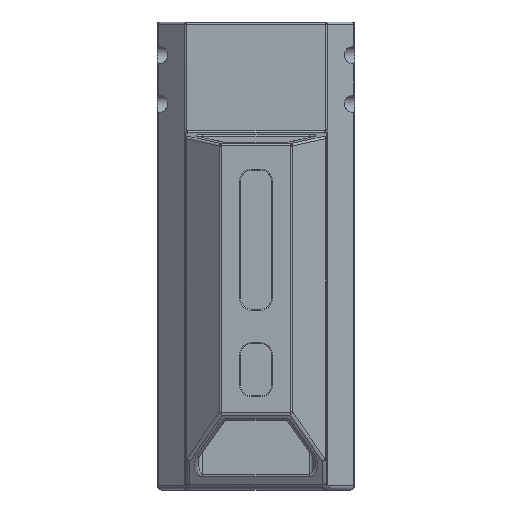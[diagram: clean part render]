
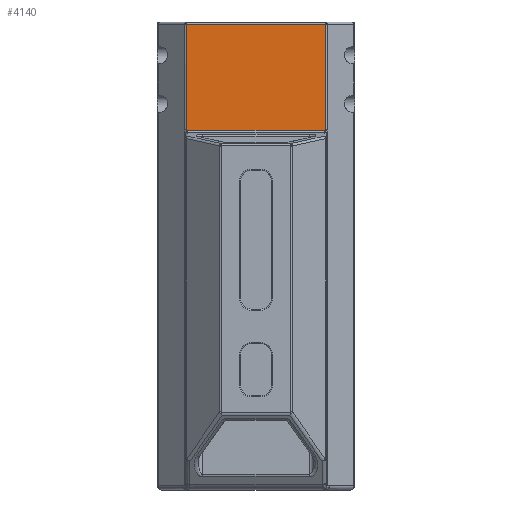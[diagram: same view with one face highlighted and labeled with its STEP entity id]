
A CAD part, front view. The second image highlights one B-rep face of the part: STEP entity #4140.
In plain terms, the highlighted planar face has unit normal (0, -1, 0).
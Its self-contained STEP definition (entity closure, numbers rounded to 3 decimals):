
#569 = EDGE_CURVE ( 'NONE', #31291, #33818, #15635, .T. ) ;
#747 = EDGE_CURVE ( 'NONE', #29474, #15491, #24361, .T. ) ;
#2136 = EDGE_CURVE ( 'NONE', #19512, #31291, #12078, .T. ) ;
#2979 = CARTESIAN_POINT ( 'NONE',  ( -16.032, 0., -24.99 ) ) ;
#3996 = DIRECTION ( 'NONE',  ( 1., 0., 0. ) ) ;
#4140 = ADVANCED_FACE ( 'NONE', ( #19624 ), #14696, .F. ) ;
#4248 = CARTESIAN_POINT ( 'NONE',  ( -16.25, 0., -25.4 ) ) ;
#4785 = EDGE_CURVE ( 'NONE', #33818, #29474, #20889, .T. ) ;
#5435 = B_SPLINE_CURVE_WITH_KNOTS ( 'NONE', 3,
 ( #26818, #18783, #2979, #32443, #21572, #16198, #10919 ),
 .UNSPECIFIED., .F., .F.,
 ( 4, 3, 4 ),
 ( 0., 0., 0. ),
 .UNSPECIFIED. ) ;
#6689 = DIRECTION ( 'NONE',  ( 0., 1., 0. ) ) ;
#6908 = DIRECTION ( 'NONE',  ( 0., 0., 1. ) ) ;
#7718 = ORIENTED_EDGE ( 'NONE', *, *, #4785, .T. ) ;
#8312 = ORIENTED_EDGE ( 'NONE', *, *, #30938, .T. ) ;
#9636 = DIRECTION ( 'NONE',  ( 0., 0., 1. ) ) ;
#10211 = CARTESIAN_POINT ( 'NONE',  ( 16.037, 0., -24.984 ) ) ;
#10919 = CARTESIAN_POINT ( 'NONE',  ( -16.022, 0., -24.999 ) ) ;
#11440 = CARTESIAN_POINT ( 'NONE',  ( -16.043, 0., -25.4 ) ) ;
#11547 = DIRECTION ( 'NONE',  ( 0., 0., -1. ) ) ;
#12078 = B_SPLINE_CURVE_WITH_KNOTS ( 'NONE', 3,
 ( #31290, #12644, #25769, #22954, #12425, #10211, #28766 ),
 .UNSPECIFIED., .F., .F.,
 ( 4, 3, 4 ),
 ( 0., 0., 0. ),
 .UNSPECIFIED. ) ;
#12425 = CARTESIAN_POINT ( 'NONE',  ( 16.032, 0., -24.99 ) ) ;
#12644 = CARTESIAN_POINT ( 'NONE',  ( 16.024, 0., -24.998 ) ) ;
#13378 = VERTEX_POINT ( 'NONE', #25288 ) ;
#13618 = VECTOR ( 'NONE', #6908, 1000. ) ;
#13814 = VECTOR ( 'NONE', #34445, 1000. ) ;
#13961 = CARTESIAN_POINT ( 'NONE',  ( -16.043, 0., -0.5 ) ) ;
#14696 = PLANE ( 'NONE',  #22256 ) ;
#15491 = VERTEX_POINT ( 'NONE', #18169 ) ;
#15635 = LINE ( 'NONE', #20264, #13618 ) ;
#15702 = EDGE_LOOP ( 'NONE', ( #8312, #24364, #22379, #7718, #17447, #24583 ) ) ;
#16084 = LINE ( 'NONE', #24923, #19015 ) ;
#16198 = CARTESIAN_POINT ( 'NONE',  ( -16.024, 0., -24.998 ) ) ;
#17447 = ORIENTED_EDGE ( 'NONE', *, *, #747, .T. ) ;
#18169 = CARTESIAN_POINT ( 'NONE',  ( -16.043, 0., -24.978 ) ) ;
#18210 = CARTESIAN_POINT ( 'NONE',  ( -16.043, 0., -0.5 ) ) ;
#18783 = CARTESIAN_POINT ( 'NONE',  ( -16.037, 0., -24.984 ) ) ;
#18968 = VECTOR ( 'NONE', #11547, 1000. ) ;
#19015 = VECTOR ( 'NONE', #3996, 1000. ) ;
#19512 = VERTEX_POINT ( 'NONE', #23539 ) ;
#19624 = FACE_OUTER_BOUND ( 'NONE', #15702, .T. ) ;
#20264 = CARTESIAN_POINT ( 'NONE',  ( 16.043, 0., 0. ) ) ;
#20889 = LINE ( 'NONE', #18210, #13814 ) ;
#20974 = CARTESIAN_POINT ( 'NONE',  ( 16.043, 0., -0.5 ) ) ;
#21572 = CARTESIAN_POINT ( 'NONE',  ( -16.025, 0., -24.997 ) ) ;
#22256 = AXIS2_PLACEMENT_3D ( 'NONE', #4248, #6689, #9636 ) ;
#22379 = ORIENTED_EDGE ( 'NONE', *, *, #569, .T. ) ;
#22954 = CARTESIAN_POINT ( 'NONE',  ( 16.026, 0., -24.995 ) ) ;
#23539 = CARTESIAN_POINT ( 'NONE',  ( 16.022, 0., -24.999 ) ) ;
#24361 = LINE ( 'NONE', #11440, #18968 ) ;
#24364 = ORIENTED_EDGE ( 'NONE', *, *, #2136, .T. ) ;
#24583 = ORIENTED_EDGE ( 'NONE', *, *, #27228, .T. ) ;
#24923 = CARTESIAN_POINT ( 'NONE',  ( -16.25, 0., -24.999 ) ) ;
#25288 = CARTESIAN_POINT ( 'NONE',  ( -16.022, 0., -24.999 ) ) ;
#25769 = CARTESIAN_POINT ( 'NONE',  ( 16.025, 0., -24.997 ) ) ;
#26818 = CARTESIAN_POINT ( 'NONE',  ( -16.043, 0., -24.978 ) ) ;
#27228 = EDGE_CURVE ( 'NONE', #15491, #13378, #5435, .T. ) ;
#28766 = CARTESIAN_POINT ( 'NONE',  ( 16.043, 0., -24.978 ) ) ;
#29190 = CARTESIAN_POINT ( 'NONE',  ( 16.043, 0., -24.978 ) ) ;
#29474 = VERTEX_POINT ( 'NONE', #13961 ) ;
#30938 = EDGE_CURVE ( 'NONE', #13378, #19512, #16084, .T. ) ;
#31290 = CARTESIAN_POINT ( 'NONE',  ( 16.022, 0., -24.999 ) ) ;
#31291 = VERTEX_POINT ( 'NONE', #29190 ) ;
#32443 = CARTESIAN_POINT ( 'NONE',  ( -16.026, 0., -24.995 ) ) ;
#33818 = VERTEX_POINT ( 'NONE', #20974 ) ;
#34445 = DIRECTION ( 'NONE',  ( -1., 0., 0. ) ) ;
